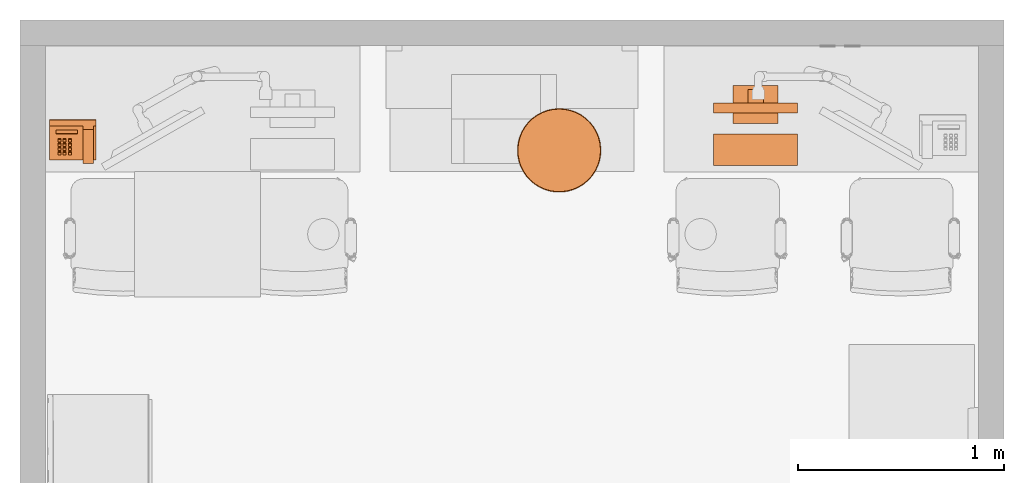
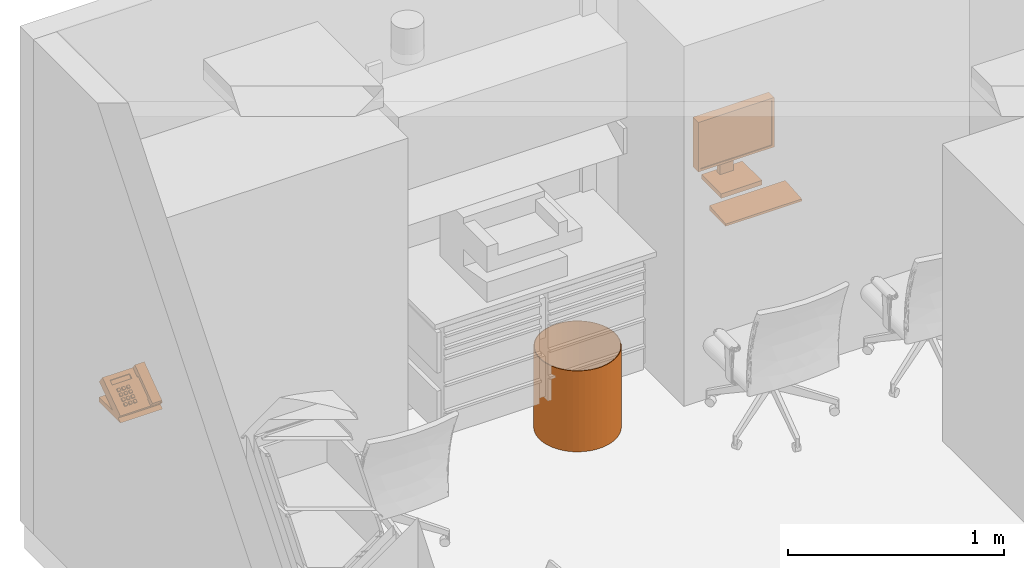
# One storey, part 10 of 15: 3 proxies.
"""IFC2X3 building model written with IfcOpenShell, lengths in feet."""

from ifc_helpers import new_model, entity, si_unit, converted_unit, derived_unit, direction, frame, frame_2d, origin, place, context, subcontext, project, spatial, circle, hollow_circle, extrude, faceted_brep, source, transform, mapped, material, material_list, type_object, type_shapes, element, save


model = new_model("IFC2X3")

# Units and contexts
model_context = context("Model", 3, precision=0.0001, world=origin(), true_north=direction((6.12303176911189e-17, 1.0)))
body_context = subcontext(model_context, "Body", "Model", "MODEL_VIEW")
ifc_project = project(units=[converted_unit("LENGTHUNIT", "FOOT", entity("IfcRatioMeasure", 0.3048), si_unit("LENGTHUNIT", "METRE"), dimensions=[1, 0, 0, 0, 0, 0, 0]), converted_unit("AREAUNIT", "SQUARE FOOT", entity("IfcRatioMeasure", 0.09290304), si_unit("AREAUNIT", "SQUARE_METRE"), dimensions=[2, 0, 0, 0, 0, 0, 0]), converted_unit("VOLUMEUNIT", "CUBIC FOOT", entity("IfcRatioMeasure", 0.028316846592), si_unit("VOLUMEUNIT", "CUBIC_METRE"), dimensions=[3, 0, 0, 0, 0, 0, 0]), converted_unit("PLANEANGLEUNIT", "DEGREE", entity("IfcRatioMeasure", 0.0174532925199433), si_unit("PLANEANGLEUNIT", "RADIAN"), dimensions=[0, 0, 0, 0, 0, 0, 0]), si_unit("MASSUNIT", "GRAM", prefix="KILO"), derived_unit("MASSDENSITYUNIT", [(si_unit("MASSUNIT", "GRAM", prefix="KILO"), 1), (si_unit("LENGTHUNIT", "METRE"), -3)]), si_unit("TIMEUNIT", "SECOND"), si_unit("FREQUENCYUNIT", "HERTZ"), si_unit("THERMODYNAMICTEMPERATUREUNIT", "DEGREE_CELSIUS"), derived_unit("THERMALTRANSMITTANCEUNIT", [(si_unit("MASSUNIT", "GRAM", prefix="KILO"), 1), (si_unit("THERMODYNAMICTEMPERATUREUNIT", "KELVIN"), -1), (si_unit("TIMEUNIT", "SECOND"), -3)]), derived_unit("VOLUMETRICFLOWRATEUNIT", [(si_unit("LENGTHUNIT", "METRE"), 3), (si_unit("TIMEUNIT", "SECOND"), -1)]), si_unit("ELECTRICCURRENTUNIT", "AMPERE"), si_unit("ELECTRICVOLTAGEUNIT", "VOLT"), si_unit("POWERUNIT", "WATT"), si_unit("FORCEUNIT", "NEWTON"), si_unit("ILLUMINANCEUNIT", "LUX"), si_unit("LUMINOUSFLUXUNIT", "LUMEN"), si_unit("LUMINOUSINTENSITYUNIT", "CANDELA"), derived_unit("USERDEFINED", [(si_unit("MASSUNIT", "GRAM", prefix="KILO"), -1), (si_unit("LENGTHUNIT", "METRE"), -2), (si_unit("TIMEUNIT", "SECOND"), 3), (si_unit("LUMINOUSFLUXUNIT", "LUMEN"), 1)]), derived_unit("LINEARVELOCITYUNIT", [(si_unit("LENGTHUNIT", "METRE"), 1), (si_unit("TIMEUNIT", "SECOND"), -1)]), si_unit("PRESSUREUNIT", "PASCAL"), derived_unit("USERDEFINED", [(si_unit("LENGTHUNIT", "METRE"), -2), (si_unit("MASSUNIT", "GRAM", prefix="KILO"), 1), (si_unit("TIMEUNIT", "SECOND"), -2)])], contexts=[model_context])

# Site, building, storey, space
site_placement = place(None, origin())
site = spatial("IfcSite", under=ifc_project, at=site_placement, Name="Default", CompositionType="ELEMENT")
building_placement = place(site_placement, origin())
building = spatial("IfcBuilding", under=site, at=building_placement, Name="EYE CLINIC:  OPTHALMOLOGY AND OPTOMETRY SERVICES (Ch. 233)", CompositionType="ELEMENT")
storey_placement = place(building_placement, origin())
storey = spatial("IfcBuildingStorey", under=building, at=storey_placement, Name="DATUM", CompositionType="ELEMENT", Elevation=0.0)
space_placement = place(storey_placement, origin())
space = spatial("IfcSpace", under=storey, at=space_placement, Name="(OPLV2)", CompositionType="ELEMENT", InteriorOrExteriorSpace="INTERNAL")

# Proxies
building_element_proxy_type_1 = type_object("IfcBuildingElementProxyType", Name="F2000 - Basket, Wastepaper 16\"x 16\"", PredefinedType="NOTDEFINED")
shared_shape_1 = source(origin(), body_context, "Body", "SweptSolid", [
    extrude(circle(Radius=0.666666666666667, at=frame_2d((0.0, -3.14944602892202e-15), x_axis=(1.0, 0.0))), origin(), (0.0, 0.0, 1.0), 0.0104166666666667),
    extrude(hollow_circle(Radius=0.666666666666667, WallThickness=0.0104166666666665, at=frame_2d((0.0, -3.14944602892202e-15), x_axis=(1.0, 0.0))), frame((0.0, 0.0, 0.0104166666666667)), (0.0, 0.0, 1.0), 1.48958333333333),
])
type_shapes(building_element_proxy_type_1, [shared_shape_1])
proxy_1_placement = place(space_placement, frame((342.973102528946, 9.64095901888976, 0.0), z_axis=(0.0, 0.0, 1.0), x_axis=(0.0, 1.0, 0.0)))
element("IfcBuildingElementProxy", 1, at=proxy_1_placement, inside=space, type_object=building_element_proxy_type_1, Name="F2000 - Basket, Wastepaper, Fire Resistant:F2000 - Basket, Wastepaper 16\"x 16\"", ObjectType="F2000 - Basket, Wastepaper 16\"x 16\"", context=body_context, shape_type="MappedRepresentation", body=[
    mapped(shared_shape_1, transform((0.0, 0.0, 0.0), scale=1.0)),
])
building_element_proxy_type_2 = type_object("IfcBuildingElementProxyType", Name="M1801 Computer", PredefinedType="NOTDEFINED")
shared_shape_2 = source(origin(), body_context, "Body", "Brep", [
    faceted_brep([(0.666666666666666, 0.437223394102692, 1.41666666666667), (-0.666666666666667, 0.437223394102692, 1.41666666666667), (-0.666666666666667, 0.271109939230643, 1.41666666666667), (0.666666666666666, 0.271109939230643, 1.41666666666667), (0.666666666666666, 0.437223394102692, 0.500000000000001), (0.666666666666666, 0.271109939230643, 0.500000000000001), (-0.666666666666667, 0.271109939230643, 0.500000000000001), (-0.666666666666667, 0.437223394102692, 0.500000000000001), (-0.625, 0.271109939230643, 1.375), (0.625, 0.271109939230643, 1.375), (0.625, 0.271109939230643, 0.541666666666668), (-0.625, 0.271109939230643, 0.541666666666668), (0.625, 0.286812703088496, 1.375), (-0.625, 0.286812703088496, 1.375), (0.625, 0.286812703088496, 0.541666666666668), (-0.625, 0.286812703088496, 0.541666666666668)], [[[0, 1, 2, 3]], [[4, 5, 6, 7]], [[1, 0, 4, 7]], [[2, 1, 7, 6]], [[3, 2, 6, 5], [8, 9, 10, 11]], [[0, 3, 5, 4]], [[12, 9, 8, 13]], [[14, 15, 11, 10]], [[12, 13, 15, 14]], [[13, 8, 11, 15]], [[9, 12, 14, 10]]]),
    faceted_brep([(0.358011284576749, 0.111770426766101, 0.0833333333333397), (0.358011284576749, 0.111770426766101, 0.0), (0.358011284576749, 0.708333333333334, 0.0), (0.358011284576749, 0.708333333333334, 0.0833333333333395), (-0.358011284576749, 0.708333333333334, 0.0833333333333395), (-0.358011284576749, 0.708333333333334, 0.0), (-0.358011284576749, 0.111770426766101, 0.0), (-0.358011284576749, 0.111770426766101, 0.0833333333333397), (0.12128795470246, 0.645556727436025, 0.104166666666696), (0.12128795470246, 0.645556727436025, 0.0833333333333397), (-0.12128795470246, 0.645556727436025, 0.0833333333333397), (-0.12128795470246, 0.645556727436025, 0.104166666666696), (0.12128795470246, 0.645556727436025, 0.958333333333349), (-0.12128795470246, 0.645556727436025, 0.958333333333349), (0.12128795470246, 0.437223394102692, 0.958333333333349), (-0.12128795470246, 0.437223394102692, 0.958333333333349), (0.12128795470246, 0.437223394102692, 0.791666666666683), (-0.12128795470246, 0.437223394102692, 0.791666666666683), (0.12128795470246, 0.562223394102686, 0.791666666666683), (-0.12128795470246, 0.562223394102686, 0.791666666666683), (0.12128795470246, 0.562223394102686, 0.0833333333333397), (-0.12128795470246, 0.562223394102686, 0.0833333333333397)], [[[0, 1, 2, 3]], [[4, 5, 6, 7]], [[8, 9, 10, 11]], [[12, 8, 11, 13]], [[14, 12, 13, 15]], [[16, 14, 15, 17]], [[18, 16, 17, 19]], [[20, 18, 19, 21]], [[0, 3, 4, 7], [9, 20, 21, 10]], [[1, 0, 7, 6]], [[2, 1, 6, 5]], [[3, 2, 5, 4]], [[20, 9, 8, 12, 14, 16, 18]], [[10, 21, 19, 17, 15, 13, 11]]]),
    faceted_brep([(0.666666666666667, -0.5625, 0.0), (0.666666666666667, -0.0624999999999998, 0.0), (0.666666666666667, -0.0624999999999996, 0.0833333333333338), (0.666666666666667, -0.5625, 0.0416666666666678), (-0.666666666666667, -0.5625, 0.0), (-0.666666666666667, -0.5625, 0.0416666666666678), (-0.666666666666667, -0.0624999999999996, 0.0833333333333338), (-0.666666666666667, -0.0624999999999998, 0.0)], [[[0, 1, 2, 3]], [[4, 5, 6, 7]], [[1, 0, 4, 7]], [[2, 1, 7, 6]], [[3, 2, 6, 5]], [[0, 3, 5, 4]]]),
])
type_shapes(building_element_proxy_type_2, [shared_shape_2])
proxy_2_placement = place(space_placement, frame((346.097008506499, 9.96018743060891, 2.99921907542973)))
element("IfcBuildingElementProxy", 2, at=proxy_2_placement, inside=space, type_object=building_element_proxy_type_2, Name="M1801 - Computer, Microprocessing, With Flat Panel Monitor:M1801 Computer", ObjectType="M1801 Computer", context=body_context, shape_type="MappedRepresentation", body=[
    mapped(shared_shape_2, transform((0.0, 0.0, 0.0), scale=1.0)),
])
ifc_material_1 = material(Name="Plastic - White")
ifc_material_2 = material(Name="Plastic - Gray,Dark")
ifc_material_list_1 = material_list([ifc_material_1, ifc_material_2])
ifc_material_list_2 = material_list([ifc_material_1, ifc_material_2])
building_element_proxy_type_3 = type_object("IfcBuildingElementProxyType", Name="UXX15 - Telephone, Desk, Low Vision", PredefinedType="NOTDEFINED", material=ifc_material_list_2)
shared_shape_3 = source(origin(), body_context, "Body", "Brep", [
    faceted_brep([(0.0390625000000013, 0.261320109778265, 0.451787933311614), (0.0390625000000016, 0.225161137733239, 0.400147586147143), (0.039062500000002, 0.0904130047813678, 0.494499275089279), (0.0390625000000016, 0.163563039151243, 0.598968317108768), (0.0390625, 0.699689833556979, 0.205455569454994), (0.0390625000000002, 0.629478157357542, 0.109798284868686), (0.0390625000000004, 0.538332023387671, 0.176698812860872), (0.0390625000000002, 0.572560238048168, 0.223329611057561), (0.206937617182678, 0.261320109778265, 0.451787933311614), (0.206937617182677, 0.572560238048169, 0.223329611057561), (0.206937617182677, 0.538332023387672, 0.176698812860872), (0.206937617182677, 0.629478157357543, 0.109798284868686), (0.206937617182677, 0.69968983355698, 0.205455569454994), (0.206937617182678, 0.163563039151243, 0.598968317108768), (0.206937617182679, 0.0904130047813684, 0.494499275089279), (0.206937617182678, 0.225161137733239, 0.400147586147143)], [[[0, 1, 2, 3, 4, 5, 6, 7]], [[8, 9, 10, 11, 12, 13, 14, 15]], [[7, 9, 8, 0]], [[6, 10, 9, 7]], [[5, 11, 10, 6]], [[4, 12, 11, 5]], [[3, 13, 12, 4]], [[2, 14, 13, 3]], [[1, 15, 14, 2]], [[0, 8, 15, 1]]]),
    faceted_brep([(0.441995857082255, 0.457472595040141, 0.295395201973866), (0.441995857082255, 0.496153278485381, 0.268310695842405), (0.395120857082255, 0.496153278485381, 0.268310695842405), (0.395120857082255, 0.457472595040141, 0.295395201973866), (0.441995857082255, 0.442535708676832, 0.274063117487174), (0.395120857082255, 0.442535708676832, 0.274063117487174), (0.395120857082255, 0.481216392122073, 0.246978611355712), (0.441995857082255, 0.481216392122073, 0.246978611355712)], [[[0, 1, 2, 3]], [[4, 5, 6, 7]], [[3, 5, 4, 0]], [[2, 6, 5, 3]], [[1, 7, 6, 2]], [[0, 4, 7, 1]]]),
    faceted_brep([(0.441995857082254, 0.525735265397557, 0.247597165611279), (0.441995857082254, 0.564415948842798, 0.220512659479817), (0.395120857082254, 0.564415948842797, 0.220512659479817), (0.395120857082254, 0.525735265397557, 0.247597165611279), (0.441995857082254, 0.510798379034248, 0.226265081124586), (0.395120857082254, 0.510798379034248, 0.226265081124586), (0.395120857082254, 0.549479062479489, 0.199180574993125), (0.441995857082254, 0.549479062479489, 0.199180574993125)], [[[0, 1, 2, 3]], [[4, 5, 6, 7]], [[3, 5, 4, 0]], [[2, 6, 5, 3]], [[1, 7, 6, 2]], [[0, 4, 7, 1]]]),
    faceted_brep([(0.525329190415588, 0.525735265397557, 0.247597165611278), (0.525329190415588, 0.564415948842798, 0.220512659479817), (0.478454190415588, 0.564415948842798, 0.220512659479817), (0.478454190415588, 0.525735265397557, 0.247597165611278), (0.525329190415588, 0.510798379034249, 0.226265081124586), (0.478454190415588, 0.510798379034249, 0.226265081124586), (0.478454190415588, 0.549479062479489, 0.199180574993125), (0.525329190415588, 0.54947906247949, 0.199180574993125)], [[[0, 1, 2, 3]], [[4, 5, 6, 7]], [[3, 5, 4, 0]], [[2, 6, 5, 3]], [[1, 7, 6, 2]], [[0, 4, 7, 1]]]),
    faceted_brep([(0.608662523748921, 0.525735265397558, 0.247597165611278), (0.608662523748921, 0.564415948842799, 0.220512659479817), (0.561787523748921, 0.564415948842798, 0.220512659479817), (0.561787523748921, 0.525735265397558, 0.247597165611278), (0.608662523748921, 0.510798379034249, 0.226265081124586), (0.561787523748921, 0.510798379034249, 0.226265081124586), (0.561787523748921, 0.54947906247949, 0.199180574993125), (0.608662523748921, 0.54947906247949, 0.199180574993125)], [[[0, 1, 2, 3]], [[4, 5, 6, 7]], [[3, 5, 4, 0]], [[2, 6, 5, 3]], [[1, 7, 6, 2]], [[0, 4, 7, 1]]]),
    faceted_brep([(0.608662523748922, 0.457472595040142, 0.295395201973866), (0.608662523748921, 0.496153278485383, 0.268310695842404), (0.561787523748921, 0.496153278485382, 0.268310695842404), (0.561787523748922, 0.457472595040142, 0.295395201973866), (0.608662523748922, 0.442535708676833, 0.274063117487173), (0.561787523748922, 0.442535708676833, 0.274063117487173), (0.561787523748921, 0.481216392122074, 0.246978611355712), (0.608662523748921, 0.481216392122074, 0.246978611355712)], [[[0, 1, 2, 3]], [[4, 5, 6, 7]], [[3, 5, 4, 0]], [[2, 6, 5, 3]], [[1, 7, 6, 2]], [[0, 4, 7, 1]]]),
    faceted_brep([(0.525329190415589, 0.389209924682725, 0.343193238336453), (0.525329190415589, 0.427890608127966, 0.316108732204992), (0.478454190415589, 0.427890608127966, 0.316108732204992), (0.478454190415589, 0.389209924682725, 0.343193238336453), (0.525329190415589, 0.374273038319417, 0.321861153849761), (0.478454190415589, 0.374273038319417, 0.321861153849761), (0.478454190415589, 0.412953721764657, 0.2947766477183), (0.525329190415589, 0.412953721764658, 0.2947766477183)], [[[0, 1, 2, 3]], [[4, 5, 6, 7]], [[3, 5, 4, 0]], [[2, 6, 5, 3]], [[1, 7, 6, 2]], [[0, 4, 7, 1]]]),
    faceted_brep([(0.608662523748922, 0.389209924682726, 0.343193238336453), (0.608662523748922, 0.427890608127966, 0.316108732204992), (0.561787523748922, 0.427890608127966, 0.316108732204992), (0.561787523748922, 0.389209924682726, 0.343193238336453), (0.608662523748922, 0.374273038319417, 0.321861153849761), (0.561787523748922, 0.374273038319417, 0.321861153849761), (0.561787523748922, 0.412953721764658, 0.2947766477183), (0.608662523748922, 0.412953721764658, 0.2947766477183)], [[[0, 1, 2, 3]], [[4, 5, 6, 7]], [[3, 5, 4, 0]], [[2, 6, 5, 3]], [[1, 7, 6, 2]], [[0, 4, 7, 1]]]),
    faceted_brep([(0.525329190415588, 0.457472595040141, 0.295395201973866), (0.525329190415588, 0.496153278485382, 0.268310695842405), (0.478454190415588, 0.496153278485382, 0.268310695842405), (0.478454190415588, 0.457472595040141, 0.295395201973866), (0.525329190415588, 0.442535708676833, 0.274063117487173), (0.478454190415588, 0.442535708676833, 0.274063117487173), (0.478454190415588, 0.481216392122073, 0.246978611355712), (0.525329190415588, 0.481216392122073, 0.246978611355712)], [[[0, 1, 2, 3]], [[4, 5, 6, 7]], [[3, 5, 4, 0]], [[2, 6, 5, 3]], [[1, 7, 6, 2]], [[0, 4, 7, 1]]]),
    faceted_brep([(0.441995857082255, 0.389209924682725, 0.343193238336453), (0.441995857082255, 0.427890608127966, 0.316108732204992), (0.395120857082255, 0.427890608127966, 0.316108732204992), (0.395120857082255, 0.389209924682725, 0.343193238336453), (0.441995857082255, 0.374273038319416, 0.321861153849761), (0.395120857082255, 0.374273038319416, 0.321861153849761), (0.395120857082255, 0.412953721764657, 0.294776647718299), (0.441995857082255, 0.412953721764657, 0.294776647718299)], [[[0, 1, 2, 3]], [[4, 5, 6, 7]], [[3, 5, 4, 0]], [[2, 6, 5, 3]], [[1, 7, 6, 2]], [[0, 4, 7, 1]]]),
    faceted_brep([(0.608662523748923, 0.32094725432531, 0.39099127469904), (0.608662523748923, 0.35962793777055, 0.363906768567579), (0.561787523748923, 0.35962793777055, 0.363906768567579), (0.561787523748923, 0.32094725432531, 0.39099127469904), (0.608662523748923, 0.306010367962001, 0.369659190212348), (0.561787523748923, 0.306010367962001, 0.369659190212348), (0.561787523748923, 0.344691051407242, 0.342574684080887), (0.608662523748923, 0.344691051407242, 0.342574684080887)], [[[0, 1, 2, 3]], [[4, 5, 6, 7]], [[3, 5, 4, 0]], [[2, 6, 5, 3]], [[1, 7, 6, 2]], [[0, 4, 7, 1]]]),
    faceted_brep([(0.525329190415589, 0.320947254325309, 0.39099127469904), (0.525329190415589, 0.35962793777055, 0.363906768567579), (0.478454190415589, 0.35962793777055, 0.363906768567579), (0.478454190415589, 0.320947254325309, 0.39099127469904), (0.525329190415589, 0.306010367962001, 0.369659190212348), (0.478454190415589, 0.306010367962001, 0.369659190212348), (0.478454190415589, 0.344691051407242, 0.342574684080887), (0.525329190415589, 0.344691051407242, 0.342574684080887)], [[[0, 1, 2, 3]], [[4, 5, 6, 7]], [[3, 5, 4, 0]], [[2, 6, 5, 3]], [[1, 7, 6, 2]], [[0, 4, 7, 1]]]),
    faceted_brep([(0.441995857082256, 0.320947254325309, 0.390991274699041), (0.441995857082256, 0.35962793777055, 0.363906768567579), (0.395120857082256, 0.35962793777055, 0.363906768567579), (0.395120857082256, 0.320947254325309, 0.390991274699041), (0.441995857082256, 0.306010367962, 0.369659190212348), (0.395120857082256, 0.306010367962, 0.369659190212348), (0.395120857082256, 0.344691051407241, 0.342574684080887), (0.441995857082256, 0.344691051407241, 0.342574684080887)], [[[0, 1, 2, 3]], [[4, 5, 6, 7]], [[3, 5, 4, 0]], [[2, 6, 5, 3]], [[1, 7, 6, 2]], [[0, 4, 7, 1]]]),
    faceted_brep([(0.0, 0.648788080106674, 0.0), (0.0, 0.0, 0.0), (0.0, 0.0, 0.0887143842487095), (0.0, 0.416666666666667, 0.0887143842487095), (0.0, 0.00709064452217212, 0.375502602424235), (0.0, 0.102686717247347, 0.512027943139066), (0.0, 0.648788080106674, 0.129643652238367), (0.0, 0.584951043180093, 0.0535656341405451), (0.739583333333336, 0.0, 0.0887143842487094), (0.739583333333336, 0.0, 0.0), (0.739583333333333, 0.648788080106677, 0.0), (0.739583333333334, 0.584951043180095, 0.0535656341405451), (0.739583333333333, 0.648788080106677, 0.129643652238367), (0.739583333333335, 0.102686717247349, 0.512027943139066), (0.739583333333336, 0.00709064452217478, 0.375502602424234), (0.739583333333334, 0.416666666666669, 0.0887143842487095), (0.0402709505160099, 0.648788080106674, 0.129643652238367), (0.0402709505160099, 0.631984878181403, 0.109618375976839), (0.206937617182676, 0.631984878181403, 0.109618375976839), (0.206937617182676, 0.648788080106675, 0.129643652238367), (0.0402709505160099, 0.597591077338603, 0.165492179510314), (0.0514355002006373, 0.205080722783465, 0.44033088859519), (0.0519147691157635, 0.582470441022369, 0.176079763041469), (0.0458532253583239, 0.188015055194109, 0.452280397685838), (0.0402709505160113, 0.170949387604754, 0.464229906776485), (0.0402709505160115, 0.102686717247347, 0.512027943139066), (0.0635585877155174, 0.567349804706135, 0.186667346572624), (0.0666865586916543, 0.217573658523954, 0.431583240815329), (0.0819376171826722, 0.230066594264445, 0.422835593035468), (0.0826691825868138, 0.558715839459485, 0.192712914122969), (0.10177977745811, 0.550081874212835, 0.198758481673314), (0.102770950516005, 0.234639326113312, 0.41963373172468), (0.12360428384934, 0.239212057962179, 0.416431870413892), (0.123604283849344, 0.550081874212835, 0.198758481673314), (0.145428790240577, 0.550081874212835, 0.198758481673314), (0.144437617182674, 0.234639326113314, 0.419633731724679), (0.165270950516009, 0.230066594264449, 0.422835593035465), (0.2983751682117, 0.234600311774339, 0.419661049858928), (0.180522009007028, 0.217573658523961, 0.431583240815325), (0.195773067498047, 0.205080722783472, 0.440330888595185), (0.2983751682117, 0.166337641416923, 0.467459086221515), (0.201355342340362, 0.188015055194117, 0.452280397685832), (0.206937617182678, 0.170949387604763, 0.464229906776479), (0.206937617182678, 0.102686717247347, 0.512027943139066), (0.641718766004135, 0.166337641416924, 0.467459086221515), (0.641718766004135, 0.23460031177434, 0.419661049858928), (0.206937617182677, 0.597591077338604, 0.165492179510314), (0.197176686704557, 0.584915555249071, 0.174367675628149), (0.18364997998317, 0.567349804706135, 0.186667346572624), (0.164539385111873, 0.558715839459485, 0.192712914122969), (0.0402709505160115, 0.0877498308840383, 0.490695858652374), (0.206937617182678, 0.0877498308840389, 0.490695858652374), (0.2983751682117, 0.21966342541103, 0.398328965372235), (0.2983751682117, 0.151400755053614, 0.446127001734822), (0.641718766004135, 0.151400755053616, 0.446127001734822), (0.641718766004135, 0.219663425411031, 0.398328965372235), (0.142147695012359, 0.222563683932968, 0.396298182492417), (0.123604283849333, 0.222563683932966, 0.396298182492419), (0.105060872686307, 0.222563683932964, 0.39629818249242), (0.0883538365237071, 0.215973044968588, 0.400912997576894), (0.0716468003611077, 0.209382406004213, 0.405527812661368), (0.0600851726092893, 0.197506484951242, 0.413843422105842), (0.0485235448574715, 0.185630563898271, 0.422159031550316), (0.0442521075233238, 0.170300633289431, 0.432893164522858), (0.0402709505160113, 0.156012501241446, 0.442897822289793), (0.206937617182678, 0.156012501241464, 0.44289782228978), (0.202956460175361, 0.170300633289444, 0.432893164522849), (0.198685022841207, 0.185630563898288, 0.422159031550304), (0.187123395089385, 0.197506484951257, 0.413843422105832), (0.175561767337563, 0.209382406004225, 0.40552781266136), (0.158854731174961, 0.215973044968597, 0.400912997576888), (0.0402709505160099, 0.582654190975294, 0.144160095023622), (0.0500318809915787, 0.569978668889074, 0.153035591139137), (0.0635585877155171, 0.552412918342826, 0.165335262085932), (0.082669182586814, 0.543778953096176, 0.171380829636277), (0.10177977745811, 0.535144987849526, 0.177426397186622), (0.123604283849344, 0.535144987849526, 0.177426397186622), (0.145428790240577, 0.535144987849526, 0.177426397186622), (0.164539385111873, 0.543778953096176, 0.171380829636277), (0.183649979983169, 0.552412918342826, 0.165335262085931), (0.195293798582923, 0.567533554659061, 0.154747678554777), (0.206937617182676, 0.582654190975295, 0.144160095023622)], [[[0, 1, 2, 3, 4, 5, 6, 7]], [[8, 9, 10, 11, 12, 13, 14, 15]], [[10, 0, 7, 11]], [[6, 16, 17, 18, 19, 12, 11, 7]], [[20, 16, 6]], [[20, 6, 21]], [[21, 22, 20]], [[21, 6, 5]], [[5, 23, 21]], [[5, 24, 23]], [[25, 24, 5]], [[21, 26, 22]], [[26, 21, 27]], [[26, 27, 28]], [[28, 29, 26]], [[28, 30, 29]], [[30, 28, 31]], [[30, 31, 32]], [[32, 33, 30]], [[32, 34, 33]], [[34, 32, 35]], [[34, 35, 36]], [[34, 36, 37]], [[37, 36, 38]], [[37, 38, 39]], [[37, 39, 40]], [[40, 39, 41]], [[40, 41, 42]], [[42, 43, 40]], [[40, 43, 44]], [[44, 43, 13]], [[45, 44, 13]], [[13, 12, 45]], [[12, 46, 45]], [[12, 19, 46]], [[37, 46, 47]], [[37, 45, 46]], [[37, 47, 48]], [[37, 48, 49]], [[37, 49, 34]], [[50, 25, 5, 4, 14, 13, 43, 51]], [[14, 4, 3, 15]], [[15, 3, 2, 8]], [[8, 2, 1, 9]], [[9, 1, 0, 10]], [[52, 53, 54, 55]], [[56, 57, 58, 59, 60, 61, 62, 63, 64, 50, 51, 65, 66, 67, 68, 69, 70]], [[17, 71, 72, 73, 74, 75, 76, 77, 78, 79, 80, 81, 18]], [[40, 44, 54, 53]], [[37, 40, 53, 52]], [[45, 37, 52, 55]], [[44, 45, 55, 54]], [[24, 25, 50, 64]], [[16, 20, 71, 17]], [[24, 64, 63]], [[35, 32, 56]], [[35, 70, 36]], [[60, 27, 61]], [[62, 23, 63]], [[23, 62, 21]], [[28, 59, 31]], [[61, 21, 62]], [[58, 31, 59]], [[24, 63, 23]], [[70, 35, 56]], [[68, 67, 39]], [[38, 68, 39]], [[32, 58, 57, 56]], [[70, 69, 36]], [[67, 41, 39]], [[66, 65, 42]], [[69, 38, 36]], [[21, 61, 27]], [[68, 38, 69]], [[66, 42, 41]], [[60, 28, 27]], [[31, 58, 32]], [[28, 60, 59]], [[41, 67, 66]], [[43, 42, 65, 51]], [[46, 19, 18, 81]], [[48, 47, 46, 81, 80, 79]], [[72, 71, 20, 22, 26, 73]], [[79, 78, 77, 34, 49, 48]], [[30, 33, 34, 77, 76, 75]], [[75, 74, 73, 26, 29, 30]]]),
])
type_shapes(building_element_proxy_type_3, [shared_shape_3])
proxy_3_placement = place(space_placement, frame((335.610834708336, 10.1326671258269, 3.0), z_axis=(0.0, 0.0, 1.0), x_axis=(-1.0, 0.0, 0.0)))
element("IfcBuildingElementProxy", 3, at=proxy_3_placement, inside=space, type_object=building_element_proxy_type_3, material=ifc_material_list_1, Name="UXX15 - Telephone, Desk, Low Vision:UXX15 - Telephone, Desk, Low Vision", ObjectType="UXX15 - Telephone, Desk, Low Vision", context=body_context, shape_type="MappedRepresentation", body=[
    mapped(shared_shape_3, transform((0.0, 0.0, 0.0), scale=1.0)),
])

save(model, "model.ifc")
